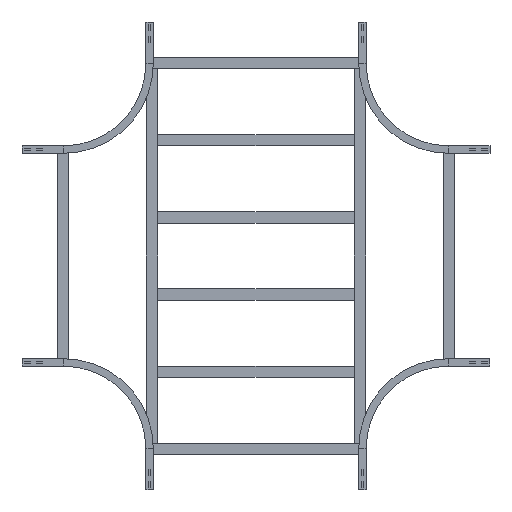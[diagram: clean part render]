
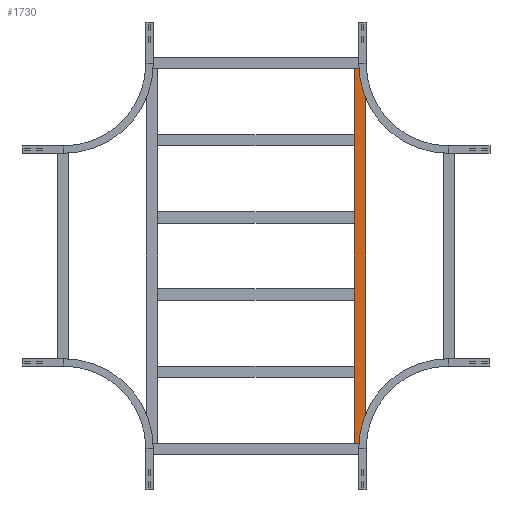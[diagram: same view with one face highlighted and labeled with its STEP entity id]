
A CAD part, front view. The second image highlights one B-rep face of the part: STEP entity #1730.
In plain terms, the highlighted planar face has unit normal (0, -1, 0).
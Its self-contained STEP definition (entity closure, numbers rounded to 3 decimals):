
#12 = ORIENTED_EDGE ( 'NONE', *, *, #236, .T. ) ;
#21 = EDGE_LOOP ( 'NONE', ( #12, #209, #956, #621 ) ) ;
#29 = VERTEX_POINT ( 'NONE', #2046 ) ;
#153 = DIRECTION ( 'NONE',  ( 0., 0., 1. ) ) ;
#159 = EDGE_CURVE ( 'NONE', #1272, #29, #1524, .T. ) ;
#202 = VECTOR ( 'NONE', #342, 1000. ) ;
#209 = ORIENTED_EDGE ( 'NONE', *, *, #159, .F. ) ;
#236 = EDGE_CURVE ( 'NONE', #1834, #29, #964, .T. ) ;
#264 = VERTEX_POINT ( 'NONE', #1789 ) ;
#342 = DIRECTION ( 'NONE',  ( 0., 0., -1. ) ) ;
#343 = DIRECTION ( 'NONE',  ( 0., 1., 0. ) ) ;
#380 = FACE_OUTER_BOUND ( 'NONE', #21, .T. ) ;
#621 = ORIENTED_EDGE ( 'NONE', *, *, #887, .T. ) ;
#714 = CARTESIAN_POINT ( 'NONE',  ( 679.75, 0., 20.25 ) ) ;
#747 = CARTESIAN_POINT ( 'NONE',  ( 679.75, 0., -20.25 ) ) ;
#761 = LINE ( 'NONE', #1311, #2312 ) ;
#797 = DIRECTION ( 'NONE',  ( 0., 0., -1. ) ) ;
#887 = EDGE_CURVE ( 'NONE', #264, #1834, #761, .T. ) ;
#945 = EDGE_CURVE ( 'NONE', #264, #1272, #2447, .T. ) ;
#956 = ORIENTED_EDGE ( 'NONE', *, *, #945, .F. ) ;
#964 = LINE ( 'NONE', #1747, #1649 ) ;
#1120 = DIRECTION ( 'NONE',  ( -1., 0., 0. ) ) ;
#1151 = PLANE ( 'NONE',  #2398 ) ;
#1268 = CARTESIAN_POINT ( 'NONE',  ( 679.75, 0., -20.25 ) ) ;
#1272 = VERTEX_POINT ( 'NONE', #1268 ) ;
#1311 = CARTESIAN_POINT ( 'NONE',  ( 679.75, 0., 20.25 ) ) ;
#1447 = VECTOR ( 'NONE', #1952, 1000. ) ;
#1524 = LINE ( 'NONE', #747, #1447 ) ;
#1649 = VECTOR ( 'NONE', #797, 1000. ) ;
#1679 = CARTESIAN_POINT ( 'NONE',  ( 679.75, 0., 20.25 ) ) ;
#1730 = ADVANCED_FACE ( 'NONE', ( #380 ), #1151, .F. ) ;
#1747 = CARTESIAN_POINT ( 'NONE',  ( -679.75, 0., 20.25 ) ) ;
#1789 = CARTESIAN_POINT ( 'NONE',  ( 679.75, 0., 20.25 ) ) ;
#1834 = VERTEX_POINT ( 'NONE', #2098 ) ;
#1952 = DIRECTION ( 'NONE',  ( -1., 0., 0. ) ) ;
#2046 = CARTESIAN_POINT ( 'NONE',  ( -679.75, 0., -20.25 ) ) ;
#2098 = CARTESIAN_POINT ( 'NONE',  ( -679.75, 0., 20.25 ) ) ;
#2312 = VECTOR ( 'NONE', #1120, 1000. ) ;
#2398 = AXIS2_PLACEMENT_3D ( 'NONE', #1679, #343, #153 ) ;
#2447 = LINE ( 'NONE', #714, #202 ) ;
